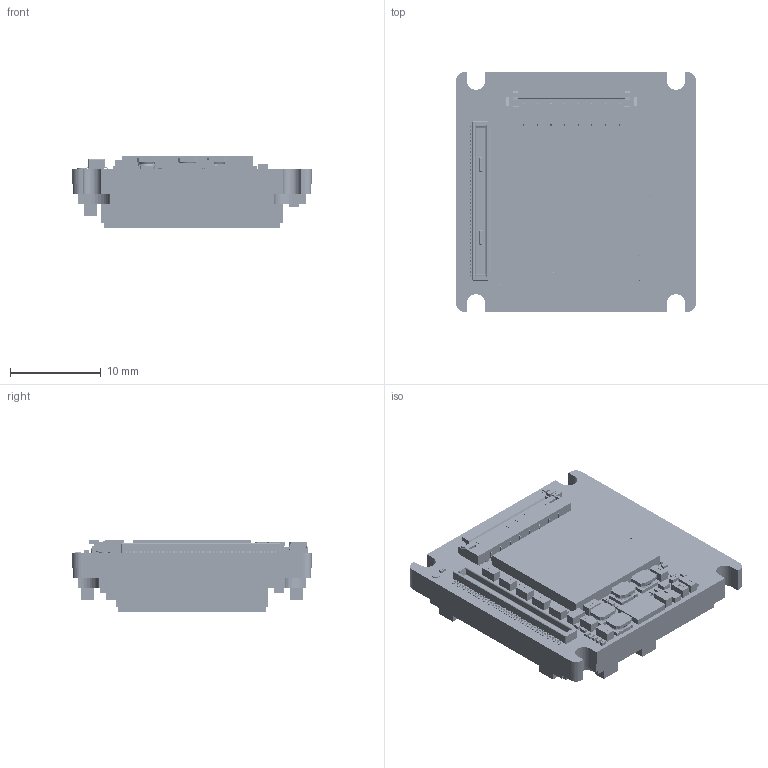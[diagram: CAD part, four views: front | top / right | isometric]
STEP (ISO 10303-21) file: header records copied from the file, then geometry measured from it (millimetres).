
FILE_DESCRIPTION (( 'STEP AP214' ), '1' );
FILE_NAME ('Alvium-CSI2-Bare-Board-IMX174-249.STEP', '2022-12-21T15:01:24', ( '' ), ( '' ), 'SwSTEP 2.0', 'SolidWorks 2021', '' );
FILE_SCHEMA (( 'AUTOMOTIVE_DESIGN' ));
Length unit declared in the file: millimetre
Products named in the file (1): Alvium-CSI2-Bare-Board-IMX174-249
Bounding box: 26.4 x 26.4 x 7.9 mm (x, y, z)
Volume: 3650.6 mm3; surface area: 4842.9 mm2
Topology: 155 solids, 155 shells, 10964 faces, 27639 edges, 18032 vertices
Faces by surface type: plane 5831, bspline 4083, cylinder 1018, torus 28, cone 4
Entity records: 681945 total; most frequent: CARTESIAN_POINT 323355, ORIENTED_EDGE 55278, DIRECTION 35241, EDGE_CURVE 27639, VERTEX_POINT 18032, VECTOR 17333, LINE 17333, EDGE_LOOP 12029
